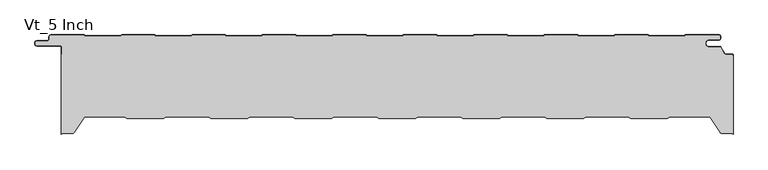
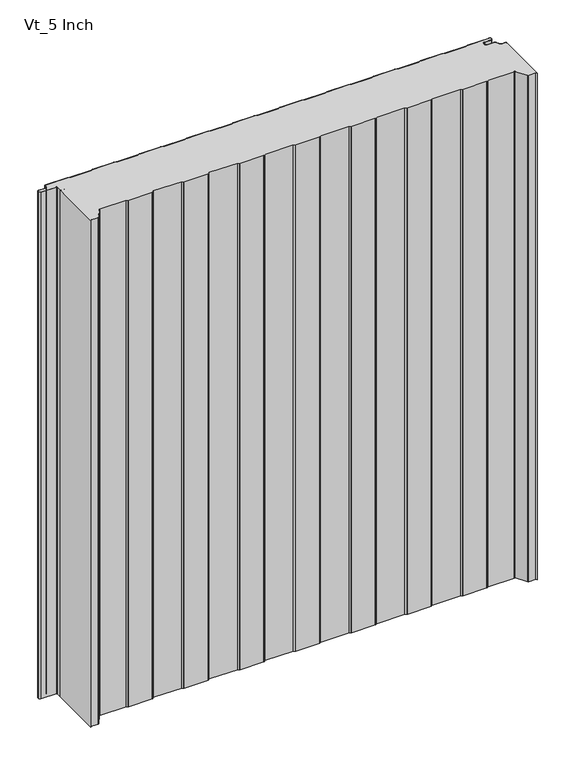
"""IFC4 building model written with IfcOpenShell, lengths in millimetres: plate geometry, KIP_R19_CP_KingSeam_Vt_Roof Panel : Vt_5 Inch."""

from ifc_helpers import new_model, si_unit, point, frame_2d, origin, origin_with_axes, place, context, project, spatial, polyline, circle_curve, trimmed, segment, composite_curve, outline, extrude, source, transform, mapped, element, save


def vt_5_inch_f296255c(model_context):
    return source(origin(), model_context, "Body", "SweptSolid", [
        extrude(outline(composite_curve([segment(trimmed(circle_curve(frame_2d((26.875, -125.5000006)), 1.4999999), [point((27.7535266, -126.7158093))], [point((26.875, -127.0000006))], False, "CARTESIAN"), True, "CONTINUOUS"), segment(polyline([(26.875, -127.0000006), (-26.875, -127.0000006)]), True, "CONTINUOUS"), segment(trimmed(circle_curve(frame_2d((-26.875, -125.5000005)), 1.5000001), [point((-26.875, -127.0000006))], [point((-27.7535268, -126.7158092))], False, "CARTESIAN"), True, "CONTINUOUS"), segment(polyline([(-27.7535268, -126.7158092), (-31.2132216, -124.2158809), (-95.786778, -124.2158809), (-99.2464733, -126.7158093)]), True, "CONTINUOUS"), segment(trimmed(circle_curve(frame_2d((-100.125, -125.5000006)), 1.4999999), [point((-99.2464733, -126.7158093))], [point((-100.125, -127.0000006))], False, "CARTESIAN"), True, "CONTINUOUS"), segment(polyline([(-100.125, -127.0000006), (-153.875, -127.0000006)]), True, "CONTINUOUS"), segment(trimmed(circle_curve(frame_2d((-153.875, -125.5000005)), 1.5000001), [point((-153.875, -127.0000006))], [point((-154.7535268, -126.7158092))], False, "CARTESIAN"), True, "CONTINUOUS"), segment(polyline([(-154.7535268, -126.7158092), (-158.2132216, -124.2158809), (-222.786778, -124.2158809), (-226.2464735, -126.7158092)]), True, "CONTINUOUS"), segment(trimmed(circle_curve(frame_2d((-227.125, -125.5000006)), 1.4999997), [point((-226.2464735, -126.7158092))], [point((-227.125, -127.0000004))], False, "CARTESIAN"), True, "CONTINUOUS"), segment(polyline([(-227.125, -127.0000004), (-280.875, -127.0000004)]), True, "CONTINUOUS"), segment(trimmed(circle_curve(frame_2d((-280.875, -125.5000003)), 1.5000001), [point((-280.875, -127.0000004))], [point((-281.7535268, -126.715809))], False, "CARTESIAN"), True, "CONTINUOUS"), segment(polyline([(-281.7535268, -126.715809), (-285.2132215, -124.2158807), (-349.7867784, -124.2158807), (-353.246473, -126.715809)]), True, "CONTINUOUS"), segment(trimmed(circle_curve(frame_2d((-354.125, -125.5000001)), 1.5000002), [point((-353.246473, -126.715809))], [point((-354.125, -127.0000003))], False, "CARTESIAN"), True, "CONTINUOUS"), segment(polyline([(-354.125, -127.0000003), (-407.8749999, -127.0000003)]), True, "CONTINUOUS"), segment(trimmed(circle_curve(frame_2d((-407.8749999, -125.5000002)), 1.5000002), [point((-407.8749999, -127.0000003))], [point((-408.7535268, -126.715809))], False, "CARTESIAN"), True, "CONTINUOUS"), segment(polyline([(-408.7535268, -126.715809), (-412.2132215, -124.2158807), (-471.3871492, -124.2158807)]), True, "CONTINUOUS"), segment(trimmed(circle_curve(frame_2d((-471.3871492, -126.7158809)), 2.5000002), [point((-471.3871492, -124.2158807))], [point((-473.4722192, -125.3365754))], True, "CARTESIAN"), True, "CONTINUOUS"), segment(polyline([(-473.4722192, -125.3365754), (-488.6756575, -148.3193254)]), True, "CONTINUOUS"), segment(trimmed(circle_curve(frame_2d((-490.3437134, -147.2158811)), 2.0), [point((-488.6756575, -148.3193254))], [point((-490.3437134, -149.2158811))], False, "CARTESIAN"), True, "CONTINUOUS"), segment(polyline([(-490.3437134, -149.2158811), (-505.9, -149.2158811)]), True, "CONTINUOUS"), segment(trimmed(circle_curve(frame_2d((-505.9, -151.3158809)), 2.0999999), [point((-505.9, -149.2158811))], [point((-507.9999998, -151.3158809))], True, "CARTESIAN"), True, "CONTINUOUS"), segment(polyline([(-507.9999998, -151.3158809), (-507.9999998, -29.9999994)]), True, "CONTINUOUS"), segment(trimmed(circle_curve(frame_2d((-505.9999998, -29.9999994)), 2.0), [point((-507.9999998, -29.9999994))], [point((-505.9999998, -31.9999994))], True, "CARTESIAN"), True, "CONTINUOUS"), segment(polyline([(-505.9999998, -31.9999994), (-498.4999998, -31.9999994), (-498.4999998, -31.1999994), (-505.9999998, -31.1999994)]), True, "CONTINUOUS"), segment(trimmed(circle_curve(frame_2d((-505.9999998, -29.6999994)), 1.5), [point((-505.9999998, -31.1999994))], [point((-507.4999998, -29.6999994))], False, "CARTESIAN"), True, "CONTINUOUS"), segment(polyline([(-507.4999998, -29.6999994), (-507.4999998, -18.4999994)]), True, "CONTINUOUS"), segment(trimmed(circle_curve(frame_2d((-509.4999998, -18.4999994)), 2.0), [point((-507.4999998, -18.4999994))], [point((-509.4999998, -16.4999994))], True, "CARTESIAN"), True, "CONTINUOUS"), segment(polyline([(-509.4999998, -16.4999994), (-544.9999998, -16.4999994)]), True, "CONTINUOUS"), segment(trimmed(circle_curve(frame_2d((-544.9999998, -13.9999994)), 2.5), [point((-544.9999998, -16.4999994))], [point((-547.4999998, -13.9999994))], False, "CARTESIAN"), True, "CONTINUOUS"), segment(polyline([(-547.4999998, -13.9999994), (-547.4999998, -11.9999994)]), True, "CONTINUOUS"), segment(trimmed(circle_curve(frame_2d((-544.9999998, -11.9999994)), 2.5), [point((-547.4999998, -11.9999994))], [point((-544.9999998, -9.4999994))], False, "CARTESIAN"), True, "CONTINUOUS"), segment(polyline([(-544.9999998, -9.4999994), (-529.2842001, -9.4999994)]), True, "CONTINUOUS"), segment(trimmed(circle_curve(frame_2d((-529.2842001, -6.4999994)), 3.0), [point((-529.2842001, -9.4999994))], [point((-526.2842001, -6.4999994))], True, "CARTESIAN"), True, "CONTINUOUS"), segment(polyline([(-526.2842001, -6.4999994), (-526.2842001, -2.9999994)]), True, "CONTINUOUS"), segment(trimmed(circle_curve(frame_2d((-524.2279507, -2.8161919)), 2.0644483), [point((-526.2842001, -2.9999994))], [point((-523.7842001, -0.7999994))], False, "CARTESIAN"), True, "CONTINUOUS"), segment(polyline([(-523.7842001, -0.7999994), (-474.0268775, -0.7999994)]), True, "CONTINUOUS"), segment(trimmed(circle_curve(frame_2d((-474.0268775, -3.1999994)), 2.4), [point((-474.0268775, -0.7999994))], [point((-473.0750562, -0.9968117))], False, "CARTESIAN"), True, "CONTINUOUS"), segment(polyline([(-473.0750562, -0.9968117), (-470.684957, -2.0293826)]), True, "CONTINUOUS"), segment(trimmed(circle_curve(frame_2d((-469.3762026, 1.0000006)), 3.3), [point((-470.684957, -2.0293826))], [point((-469.3762026, -2.2999994))], True, "CARTESIAN"), True, "CONTINUOUS"), segment(polyline([(-469.3762026, -2.2999994), (-420.9921975, -2.2999994)]), True, "CONTINUOUS"), segment(trimmed(circle_curve(frame_2d((-420.9921975, 1.0000006)), 3.3), [point((-420.9921975, -2.2999994))], [point((-419.6834432, -2.0293826))], True, "CARTESIAN"), True, "CONTINUOUS"), segment(polyline([(-419.6834432, -2.0293826), (-417.293344, -0.9968117)]), True, "CONTINUOUS"), segment(trimmed(circle_curve(frame_2d((-416.3415226, -3.1999994)), 2.4), [point((-417.293344, -0.9968117))], [point((-416.3415226, -0.7999994))], False, "CARTESIAN"), True, "CONTINUOUS"), segment(polyline([(-416.3415226, -0.7999994), (-367.4268775, -0.7999994)]), True, "CONTINUOUS"), segment(trimmed(circle_curve(frame_2d((-367.4268775, -3.1999994)), 2.4), [point((-367.4268775, -0.7999994))], [point((-366.4750562, -0.9968117))], False, "CARTESIAN"), True, "CONTINUOUS"), segment(polyline([(-366.4750562, -0.9968117), (-364.084957, -2.0293826)]), True, "CONTINUOUS"), segment(trimmed(circle_curve(frame_2d((-362.7762026, 1.0000006)), 3.3), [point((-364.084957, -2.0293826))], [point((-362.7762026, -2.2999994))], True, "CARTESIAN"), True, "CONTINUOUS"), segment(polyline([(-362.7762026, -2.2999994), (-314.3921975, -2.2999994)]), True, "CONTINUOUS"), segment(trimmed(circle_curve(frame_2d((-314.3921975, 1.0000006)), 3.3), [point((-314.3921975, -2.2999994))], [point((-313.0834432, -2.0293826))], True, "CARTESIAN"), True, "CONTINUOUS"), segment(polyline([(-313.0834432, -2.0293826), (-310.693344, -0.9968117)]), True, "CONTINUOUS"), segment(trimmed(circle_curve(frame_2d((-309.7415226, -3.1999994)), 2.4), [point((-310.693344, -0.9968117))], [point((-309.7415226, -0.7999994))], False, "CARTESIAN"), True, "CONTINUOUS"), segment(polyline([(-309.7415226, -0.7999994), (-260.8268775, -0.7999994)]), True, "CONTINUOUS"), segment(trimmed(circle_curve(frame_2d((-260.8268775, -3.1999994)), 2.4), [point((-260.8268775, -0.7999994))], [point((-259.8750562, -0.9968117))], False, "CARTESIAN"), True, "CONTINUOUS"), segment(polyline([(-259.8750562, -0.9968117), (-257.484957, -2.0293826)]), True, "CONTINUOUS"), segment(trimmed(circle_curve(frame_2d((-256.1762026, 1.0000006)), 3.3), [point((-257.484957, -2.0293826))], [point((-256.1762026, -2.2999994))], True, "CARTESIAN"), True, "CONTINUOUS"), segment(polyline([(-256.1762026, -2.2999994), (-207.7921975, -2.2999994)]), True, "CONTINUOUS"), segment(trimmed(circle_curve(frame_2d((-207.7921975, 1.0000006)), 3.3), [point((-207.7921975, -2.2999994))], [point((-206.4834432, -2.0293826))], True, "CARTESIAN"), True, "CONTINUOUS"), segment(polyline([(-206.4834432, -2.0293826), (-204.093344, -0.9968117)]), True, "CONTINUOUS"), segment(trimmed(circle_curve(frame_2d((-203.1415226, -3.1999994)), 2.4), [point((-204.093344, -0.9968117))], [point((-203.1415226, -0.7999994))], False, "CARTESIAN"), True, "CONTINUOUS"), segment(polyline([(-203.1415226, -0.7999994), (-154.2268775, -0.7999994)]), True, "CONTINUOUS"), segment(trimmed(circle_curve(frame_2d((-154.2268775, -3.1999994)), 2.4), [point((-154.2268775, -0.7999994))], [point((-153.2750562, -0.9968117))], False, "CARTESIAN"), True, "CONTINUOUS"), segment(polyline([(-153.2750562, -0.9968117), (-150.884957, -2.0293826)]), True, "CONTINUOUS"), segment(trimmed(circle_curve(frame_2d((-149.5762026, 1.0000006)), 3.3), [point((-150.884957, -2.0293826))], [point((-149.5762026, -2.2999994))], True, "CARTESIAN"), True, "CONTINUOUS"), segment(polyline([(-149.5762026, -2.2999994), (-101.1921975, -2.2999994)]), True, "CONTINUOUS"), segment(trimmed(circle_curve(frame_2d((-101.1921975, 1.0000006)), 3.3), [point((-101.1921975, -2.2999994))], [point((-99.8834432, -2.0293826))], True, "CARTESIAN"), True, "CONTINUOUS"), segment(polyline([(-99.8834432, -2.0293826), (-97.493344, -0.9968117)]), True, "CONTINUOUS"), segment(trimmed(circle_curve(frame_2d((-96.5415226, -3.1999994)), 2.4), [point((-97.493344, -0.9968117))], [point((-96.5415226, -0.7999994))], False, "CARTESIAN"), True, "CONTINUOUS"), segment(polyline([(-96.5415226, -0.7999994), (-47.6268775, -0.7999994)]), True, "CONTINUOUS"), segment(trimmed(circle_curve(frame_2d((-47.6268775, -3.1999994)), 2.4), [point((-47.6268775, -0.7999994))], [point((-46.6750562, -0.9968117))], False, "CARTESIAN"), True, "CONTINUOUS"), segment(polyline([(-46.6750562, -0.9968117), (-44.284957, -2.0293826)]), True, "CONTINUOUS"), segment(trimmed(circle_curve(frame_2d((-42.9762026, 1.0000006)), 3.3), [point((-44.284957, -2.0293826))], [point((-42.9762026, -2.2999994))], True, "CARTESIAN"), True, "CONTINUOUS"), segment(polyline([(-42.9762026, -2.2999994), (5.4078025, -2.2999994)]), True, "CONTINUOUS"), segment(trimmed(circle_curve(frame_2d((5.4078025, 1.0000006)), 3.3), [point((5.4078025, -2.2999994))], [point((6.7165568, -2.0293826))], True, "CARTESIAN"), True, "CONTINUOUS"), segment(polyline([(6.7165568, -2.0293826), (9.106656, -0.9968117)]), True, "CONTINUOUS"), segment(trimmed(circle_curve(frame_2d((10.0584774, -3.1999994)), 2.4), [point((9.106656, -0.9968117))], [point((10.0584774, -0.7999994))], False, "CARTESIAN"), True, "CONTINUOUS"), segment(polyline([(10.0584774, -0.7999994), (58.9731225, -0.7999994)]), True, "CONTINUOUS"), segment(trimmed(circle_curve(frame_2d((58.9731225, -3.1999994)), 2.4), [point((58.9731225, -0.7999994))], [point((59.9249438, -0.9968117))], False, "CARTESIAN"), True, "CONTINUOUS"), segment(polyline([(59.9249438, -0.9968117), (62.315043, -2.0293826)]), True, "CONTINUOUS"), segment(trimmed(circle_curve(frame_2d((63.6237974, 1.0000006)), 3.3), [point((62.315043, -2.0293826))], [point((63.6237974, -2.2999994))], True, "CARTESIAN"), True, "CONTINUOUS"), segment(polyline([(63.6237974, -2.2999994), (112.0078025, -2.2999994)]), True, "CONTINUOUS"), segment(trimmed(circle_curve(frame_2d((112.0078025, 1.0000006)), 3.3), [point((112.0078025, -2.2999994))], [point((113.3165568, -2.0293826))], True, "CARTESIAN"), True, "CONTINUOUS"), segment(polyline([(113.3165568, -2.0293826), (115.706656, -0.9968117)]), True, "CONTINUOUS"), segment(trimmed(circle_curve(frame_2d((116.6584774, -3.1999994)), 2.4), [point((115.706656, -0.9968117))], [point((116.6584774, -0.7999994))], False, "CARTESIAN"), True, "CONTINUOUS"), segment(polyline([(116.6584774, -0.7999994), (165.5731225, -0.7999994)]), True, "CONTINUOUS"), segment(trimmed(circle_curve(frame_2d((165.5731225, -3.1999994)), 2.4), [point((165.5731225, -0.7999994))], [point((166.5249438, -0.9968117))], False, "CARTESIAN"), True, "CONTINUOUS"), segment(polyline([(166.5249438, -0.9968117), (168.915043, -2.0293826)]), True, "CONTINUOUS"), segment(trimmed(circle_curve(frame_2d((170.2237974, 1.0000006)), 3.3), [point((168.915043, -2.0293826))], [point((170.2237974, -2.2999994))], True, "CARTESIAN"), True, "CONTINUOUS"), segment(polyline([(170.2237974, -2.2999994), (218.6078025, -2.2999994)]), True, "CONTINUOUS"), segment(trimmed(circle_curve(frame_2d((218.6078025, 1.0000006)), 3.3), [point((218.6078025, -2.2999994))], [point((219.9165568, -2.0293826))], True, "CARTESIAN"), True, "CONTINUOUS"), segment(polyline([(219.9165568, -2.0293826), (222.306656, -0.9968117)]), True, "CONTINUOUS"), segment(trimmed(circle_curve(frame_2d((223.2584774, -3.1999994)), 2.4), [point((222.306656, -0.9968117))], [point((223.2584774, -0.7999994))], False, "CARTESIAN"), True, "CONTINUOUS"), segment(polyline([(223.2584774, -0.7999994), (272.1731225, -0.7999994)]), True, "CONTINUOUS"), segment(trimmed(circle_curve(frame_2d((272.1731225, -3.1999994)), 2.4), [point((272.1731225, -0.7999994))], [point((273.1249438, -0.9968117))], False, "CARTESIAN"), True, "CONTINUOUS"), segment(polyline([(273.1249438, -0.9968117), (275.515043, -2.0293826)]), True, "CONTINUOUS"), segment(trimmed(circle_curve(frame_2d((276.8237974, 1.0000006)), 3.3), [point((275.515043, -2.0293826))], [point((276.8237974, -2.2999994))], True, "CARTESIAN"), True, "CONTINUOUS"), segment(polyline([(276.8237974, -2.2999994), (325.2078025, -2.2999994)]), True, "CONTINUOUS"), segment(trimmed(circle_curve(frame_2d((325.2078025, 1.0000006)), 3.3), [point((325.2078025, -2.2999994))], [point((326.5165568, -2.0293826))], True, "CARTESIAN"), True, "CONTINUOUS"), segment(polyline([(326.5165568, -2.0293826), (328.906656, -0.9968117)]), True, "CONTINUOUS"), segment(trimmed(circle_curve(frame_2d((329.8584774, -3.1999994)), 2.4), [point((328.906656, -0.9968117))], [point((329.8584774, -0.7999994))], False, "CARTESIAN"), True, "CONTINUOUS"), segment(polyline([(329.8584774, -0.7999994), (378.7731225, -0.7999994)]), True, "CONTINUOUS"), segment(trimmed(circle_curve(frame_2d((378.7731225, -3.1999994)), 2.4), [point((378.7731225, -0.7999994))], [point((379.7249438, -0.9968117))], False, "CARTESIAN"), True, "CONTINUOUS"), segment(polyline([(379.7249438, -0.9968117), (382.115043, -2.0293826)]), True, "CONTINUOUS"), segment(trimmed(circle_curve(frame_2d((383.4237974, 1.0000006)), 3.3), [point((382.115043, -2.0293826))], [point((383.4237974, -2.2999994))], True, "CARTESIAN"), True, "CONTINUOUS"), segment(polyline([(383.4237974, -2.2999994), (431.8078025, -2.2999994)]), True, "CONTINUOUS"), segment(trimmed(circle_curve(frame_2d((431.8078025, 1.0000006)), 3.3), [point((431.8078025, -2.2999994))], [point((433.1165568, -2.0293826))], True, "CARTESIAN"), True, "CONTINUOUS"), segment(polyline([(433.1165568, -2.0293826), (435.506656, -0.9968117)]), True, "CONTINUOUS"), segment(trimmed(circle_curve(frame_2d((436.4584774, -3.1999994)), 2.4), [point((435.506656, -0.9968117))], [point((436.4584774, -0.7999994))], False, "CARTESIAN"), True, "CONTINUOUS"), segment(polyline([(436.4584774, -0.7999994), (486.2157999, -0.7999994)]), True, "CONTINUOUS"), segment(trimmed(circle_curve(frame_2d((486.6595506, -2.8161919)), 2.0644483), [point((486.2157999, -0.7999994))], [point((488.7157999, -2.9999994))], False, "CARTESIAN"), True, "CONTINUOUS"), segment(polyline([(488.7157999, -2.9999994), (488.7157999, -4.9999994)]), True, "CONTINUOUS"), segment(trimmed(circle_curve(frame_2d((486.2157999, -4.9999994)), 2.5), [point((488.7157999, -4.9999994))], [point((486.2157999, -7.4999994))], False, "CARTESIAN"), True, "CONTINUOUS"), segment(polyline([(486.2157999, -7.4999994), (471.2500002, -7.4999994)]), True, "CONTINUOUS"), segment(trimmed(circle_curve(frame_2d((471.2500002, -12.2499994)), 4.75), [point((471.2500002, -7.4999994))], [point((466.5000002, -12.2499994))], True, "CARTESIAN"), True, "CONTINUOUS"), segment(polyline([(466.5000002, -12.2499994), (466.5000002, -13.7499994)]), True, "CONTINUOUS"), segment(trimmed(circle_curve(frame_2d((471.2500002, -13.7499994)), 4.75), [point((466.5000002, -13.7499994))], [point((471.2500002, -18.4999994))], True, "CARTESIAN"), True, "CONTINUOUS"), segment(polyline([(471.2500002, -18.4999994), (488.3513452, -18.4999994)]), True, "CONTINUOUS"), segment(trimmed(circle_curve(frame_2d((488.3513452, -19.4999994)), 1.0), [point((488.3513452, -18.4999994))], [point((489.2165838, -18.9986392))], False, "CARTESIAN"), True, "CONTINUOUS"), segment(polyline([(489.2165838, -18.9986392), (494.8780846, -28.7691573)]), True, "CONTINUOUS"), segment(trimmed(circle_curve(frame_2d((496.6085619, -27.7664368)), 2.0), [point((494.8780846, -28.7691573))], [point((496.6085619, -29.7664368))], True, "CARTESIAN"), True, "CONTINUOUS"), segment(polyline([(496.6085619, -29.7664368), (506.2, -29.7664368)]), True, "CONTINUOUS"), segment(trimmed(circle_curve(frame_2d((506.2, -30.7664368)), 1.0), [point((506.2, -29.7664368))], [point((507.2, -30.7664368))], False, "CARTESIAN"), True, "CONTINUOUS"), segment(polyline([(507.2, -30.7664368), (507.2, -31.9999994), (507.9999999, -31.9999994), (507.9999999, -151.3158808)]), True, "CONTINUOUS"), segment(trimmed(circle_curve(frame_2d((505.8999999, -151.3158808)), 2.1), [point((507.9999999, -151.3158808))], [point((505.8999999, -149.2158808))], True, "CARTESIAN"), True, "CONTINUOUS"), segment(polyline([(505.8999999, -149.2158808), (490.3437133, -149.2158808)]), True, "CONTINUOUS"), segment(trimmed(circle_curve(frame_2d((490.3437133, -147.2158808)), 2.0), [point((490.3437133, -149.2158808))], [point((488.6756574, -148.3193251))], False, "CARTESIAN"), True, "CONTINUOUS"), segment(polyline([(488.6756574, -148.3193251), (473.4722191, -125.3365754)]), True, "CONTINUOUS"), segment(trimmed(circle_curve(frame_2d((471.3871492, -126.7158808)), 2.5), [point((473.4722191, -125.3365754))], [point((471.3871492, -124.2158808))], True, "CARTESIAN"), True, "CONTINUOUS"), segment(polyline([(471.3871492, -124.2158808), (412.2132217, -124.2158808), (408.7535265, -126.7158088)]), True, "CONTINUOUS"), segment(trimmed(circle_curve(frame_2d((407.8749999, -125.5000001)), 1.4999999), [point((408.7535265, -126.7158088))], [point((407.8749999, -127.0))], False, "CARTESIAN"), True, "CONTINUOUS"), segment(polyline([(407.8749999, -127.0), (354.125, -127.0)]), True, "CONTINUOUS"), segment(trimmed(circle_curve(frame_2d((354.125, -125.4999999)), 1.5000001), [point((354.125, -127.0))], [point((353.2464731, -126.7158086))], False, "CARTESIAN"), True, "CONTINUOUS"), segment(polyline([(353.2464731, -126.7158086), (349.7867784, -124.2158803), (285.2132225, -124.2158803), (281.7535266, -126.7158091)]), True, "CONTINUOUS"), segment(trimmed(circle_curve(frame_2d((280.875, -125.5000005)), 1.4999999), [point((281.7535266, -126.7158091))], [point((280.875, -127.0000004))], False, "CARTESIAN"), True, "CONTINUOUS"), segment(polyline([(280.875, -127.0000004), (227.125, -127.0000004)]), True, "CONTINUOUS"), segment(trimmed(circle_curve(frame_2d((227.125, -125.5000003)), 1.5000001), [point((227.125, -127.0000004))], [point((226.2464732, -126.715809))], False, "CARTESIAN"), True, "CONTINUOUS"), segment(polyline([(226.2464732, -126.715809), (222.7867784, -124.2158807), (158.2132215, -124.2158807), (154.7535267, -126.7158089)]), True, "CONTINUOUS"), segment(trimmed(circle_curve(frame_2d((153.875, -125.5000002)), 1.5), [point((154.7535267, -126.7158089))], [point((153.875, -127.0000002))], False, "CARTESIAN"), True, "CONTINUOUS"), segment(polyline([(153.875, -127.0000002), (100.125, -127.0000003)]), True, "CONTINUOUS"), segment(trimmed(circle_curve(frame_2d((100.125, -125.5000003)), 1.4999999), [point((100.125, -127.0000003))], [point((99.2464733, -126.715809))], False, "CARTESIAN"), True, "CONTINUOUS"), segment(polyline([(99.2464733, -126.715809), (95.7867784, -124.2158809), (31.213222, -124.2158809), (27.7535266, -126.7158093)]), True, "CONTINUOUS")], self_intersect=False)), origin_with_axes(), (0.0, 0.0, 1.0), 1219.2),
        extrude(outline(composite_curve([segment(trimmed(circle_curve(frame_2d((-506.0157998, -30.0)), 2.0), [point((-506.0157998, -32.0))], [point((-508.0157998, -30.0))], False, "CARTESIAN"), True, "CONTINUOUS"), segment(polyline([(-508.0157998, -30.0), (-508.0157998, -18.5)]), True, "CONTINUOUS"), segment(trimmed(circle_curve(frame_2d((-509.5157998, -18.5)), 1.5), [point((-508.0157998, -18.5))], [point((-509.5157998, -17.0))], True, "CARTESIAN"), True, "CONTINUOUS"), segment(polyline([(-509.5157998, -17.0), (-545.0157998, -17.0)]), True, "CONTINUOUS"), segment(trimmed(circle_curve(frame_2d((-545.0157998, -14.0)), 3.0), [point((-545.0157998, -17.0))], [point((-548.0157998, -14.0))], False, "CARTESIAN"), True, "CONTINUOUS"), segment(polyline([(-548.0157998, -14.0), (-548.0157998, -12.0)]), True, "CONTINUOUS"), segment(trimmed(circle_curve(frame_2d((-545.0157998, -12.0)), 3.0), [point((-548.0157998, -12.0))], [point((-545.0157998, -9.0))], False, "CARTESIAN"), True, "CONTINUOUS"), segment(polyline([(-545.0157998, -9.0), (-529.3, -9.0)]), True, "CONTINUOUS"), segment(trimmed(circle_curve(frame_2d((-529.3, -6.5)), 2.5), [point((-529.3, -9.0))], [point((-526.8, -6.5))], True, "CARTESIAN"), True, "CONTINUOUS"), segment(polyline([(-526.8, -6.5), (-526.8, -3.0)]), True, "CONTINUOUS"), segment(trimmed(circle_curve(frame_2d((-523.8, -3.0)), 3.0), [point((-526.8, -3.0))], [point((-523.8, 0.0))], False, "CARTESIAN"), True, "CONTINUOUS"), segment(polyline([(-523.8, 0.0), (-474.0426774, 0.0)]), True, "CONTINUOUS"), segment(trimmed(circle_curve(frame_2d((-474.0426774, -3.2)), 3.2), [point((-474.0426774, 0.0))], [point((-472.7735823, -0.2624164))], False, "CARTESIAN"), True, "CONTINUOUS"), segment(polyline([(-472.7735823, -0.2624164), (-470.3834831, -1.2949872)]), True, "CONTINUOUS"), segment(trimmed(circle_curve(frame_2d((-469.3920026, 1.0)), 2.5), [point((-470.3834831, -1.2949872))], [point((-469.3920026, -1.5))], True, "CARTESIAN"), True, "CONTINUOUS"), segment(polyline([(-469.3920026, -1.5), (-421.0079974, -1.5)]), True, "CONTINUOUS"), segment(trimmed(circle_curve(frame_2d((-421.0079974, 1.0)), 2.5), [point((-421.0079974, -1.5))], [point((-420.0165169, -1.2949872))], True, "CARTESIAN"), True, "CONTINUOUS"), segment(polyline([(-420.0165169, -1.2949872), (-417.6264177, -0.2624164)]), True, "CONTINUOUS"), segment(trimmed(circle_curve(frame_2d((-416.3573226, -3.2)), 3.2), [point((-417.6264177, -0.2624164))], [point((-416.3573226, 0.0))], False, "CARTESIAN"), True, "CONTINUOUS"), segment(polyline([(-416.3573226, 0.0), (-367.4426774, 0.0)]), True, "CONTINUOUS"), segment(trimmed(circle_curve(frame_2d((-367.4426774, -3.2)), 3.2), [point((-367.4426774, 0.0))], [point((-366.1735823, -0.2624164))], False, "CARTESIAN"), True, "CONTINUOUS"), segment(polyline([(-366.1735823, -0.2624164), (-363.7834831, -1.2949872)]), True, "CONTINUOUS"), segment(trimmed(circle_curve(frame_2d((-362.7920026, 1.0)), 2.5), [point((-363.7834831, -1.2949872))], [point((-362.7920026, -1.5))], True, "CARTESIAN"), True, "CONTINUOUS"), segment(polyline([(-362.7920026, -1.5), (-314.4079974, -1.5)]), True, "CONTINUOUS"), segment(trimmed(circle_curve(frame_2d((-314.4079974, 1.0)), 2.5), [point((-314.4079974, -1.5))], [point((-313.4165169, -1.2949872))], True, "CARTESIAN"), True, "CONTINUOUS"), segment(polyline([(-313.4165169, -1.2949872), (-311.0264177, -0.2624164)]), True, "CONTINUOUS"), segment(trimmed(circle_curve(frame_2d((-309.7573226, -3.2)), 3.2), [point((-311.0264177, -0.2624164))], [point((-309.7573226, 0.0))], False, "CARTESIAN"), True, "CONTINUOUS"), segment(polyline([(-309.7573226, 0.0), (-260.8426774, 0.0)]), True, "CONTINUOUS"), segment(trimmed(circle_curve(frame_2d((-260.8426774, -3.2)), 3.2), [point((-260.8426774, 0.0))], [point((-259.5735823, -0.2624164))], False, "CARTESIAN"), True, "CONTINUOUS"), segment(polyline([(-259.5735823, -0.2624164), (-257.1834831, -1.2949872)]), True, "CONTINUOUS"), segment(trimmed(circle_curve(frame_2d((-256.1920026, 1.0)), 2.5), [point((-257.1834831, -1.2949872))], [point((-256.1920026, -1.5))], True, "CARTESIAN"), True, "CONTINUOUS"), segment(polyline([(-256.1920026, -1.5), (-207.8079974, -1.5)]), True, "CONTINUOUS"), segment(trimmed(circle_curve(frame_2d((-207.8079974, 1.0)), 2.5), [point((-207.8079974, -1.5))], [point((-206.8165169, -1.2949872))], True, "CARTESIAN"), True, "CONTINUOUS"), segment(polyline([(-206.8165169, -1.2949872), (-204.4264177, -0.2624164)]), True, "CONTINUOUS"), segment(trimmed(circle_curve(frame_2d((-203.1573226, -3.2)), 3.2), [point((-204.4264177, -0.2624164))], [point((-203.1573226, 0.0))], False, "CARTESIAN"), True, "CONTINUOUS"), segment(polyline([(-203.1573226, 0.0), (-154.2426774, 0.0)]), True, "CONTINUOUS"), segment(trimmed(circle_curve(frame_2d((-154.2426774, -3.2)), 3.2), [point((-154.2426774, 0.0))], [point((-152.9735823, -0.2624164))], False, "CARTESIAN"), True, "CONTINUOUS"), segment(polyline([(-152.9735823, -0.2624164), (-150.5834831, -1.2949872)]), True, "CONTINUOUS"), segment(trimmed(circle_curve(frame_2d((-149.5920026, 1.0)), 2.5), [point((-150.5834831, -1.2949872))], [point((-149.5920026, -1.5))], True, "CARTESIAN"), True, "CONTINUOUS"), segment(polyline([(-149.5920026, -1.5), (-101.2079974, -1.5)]), True, "CONTINUOUS"), segment(trimmed(circle_curve(frame_2d((-101.2079974, 1.0)), 2.5), [point((-101.2079974, -1.5))], [point((-100.2165169, -1.2949872))], True, "CARTESIAN"), True, "CONTINUOUS"), segment(polyline([(-100.2165169, -1.2949872), (-97.8264177, -0.2624164)]), True, "CONTINUOUS"), segment(trimmed(circle_curve(frame_2d((-96.5573226, -3.2)), 3.2), [point((-97.8264177, -0.2624164))], [point((-96.5573226, 0.0))], False, "CARTESIAN"), True, "CONTINUOUS"), segment(polyline([(-96.5573226, 0.0), (-47.6426774, 0.0)]), True, "CONTINUOUS"), segment(trimmed(circle_curve(frame_2d((-47.6426774, -3.2)), 3.2), [point((-47.6426774, 0.0))], [point((-46.3735823, -0.2624164))], False, "CARTESIAN"), True, "CONTINUOUS"), segment(polyline([(-46.3735823, -0.2624164), (-43.9834831, -1.2949872)]), True, "CONTINUOUS"), segment(trimmed(circle_curve(frame_2d((-42.9920026, 1.0)), 2.5), [point((-43.9834831, -1.2949872))], [point((-42.9920026, -1.5))], True, "CARTESIAN"), True, "CONTINUOUS"), segment(polyline([(-42.9920026, -1.5), (5.3920026, -1.5)]), True, "CONTINUOUS"), segment(trimmed(circle_curve(frame_2d((5.3920026, 1.0)), 2.5), [point((5.3920026, -1.5))], [point((6.3834831, -1.2949872))], True, "CARTESIAN"), True, "CONTINUOUS"), segment(polyline([(6.3834831, -1.2949872), (8.7735823, -0.2624164)]), True, "CONTINUOUS"), segment(trimmed(circle_curve(frame_2d((10.0426774, -3.2)), 3.2), [point((8.7735823, -0.2624164))], [point((10.0426774, 0.0))], False, "CARTESIAN"), True, "CONTINUOUS"), segment(polyline([(10.0426774, 0.0), (58.9573226, 0.0)]), True, "CONTINUOUS"), segment(trimmed(circle_curve(frame_2d((58.9573226, -3.2)), 3.2), [point((58.9573226, 0.0))], [point((60.2264177, -0.2624164))], False, "CARTESIAN"), True, "CONTINUOUS"), segment(polyline([(60.2264177, -0.2624164), (62.6165169, -1.2949872)]), True, "CONTINUOUS"), segment(trimmed(circle_curve(frame_2d((63.6079974, 1.0)), 2.5), [point((62.6165169, -1.2949872))], [point((63.6079974, -1.5))], True, "CARTESIAN"), True, "CONTINUOUS"), segment(polyline([(63.6079974, -1.5), (111.9920026, -1.5)]), True, "CONTINUOUS"), segment(trimmed(circle_curve(frame_2d((111.9920026, 1.0)), 2.5), [point((111.9920026, -1.5))], [point((112.9834831, -1.2949872))], True, "CARTESIAN"), True, "CONTINUOUS"), segment(polyline([(112.9834831, -1.2949872), (115.3735823, -0.2624164)]), True, "CONTINUOUS"), segment(trimmed(circle_curve(frame_2d((116.6426774, -3.2)), 3.2), [point((115.3735823, -0.2624164))], [point((116.6426774, 0.0))], False, "CARTESIAN"), True, "CONTINUOUS"), segment(polyline([(116.6426774, 0.0), (165.5573226, 0.0)]), True, "CONTINUOUS"), segment(trimmed(circle_curve(frame_2d((165.5573226, -3.2)), 3.2), [point((165.5573226, 0.0))], [point((166.8264177, -0.2624164))], False, "CARTESIAN"), True, "CONTINUOUS"), segment(polyline([(166.8264177, -0.2624164), (169.2165169, -1.2949872)]), True, "CONTINUOUS"), segment(trimmed(circle_curve(frame_2d((170.2079974, 1.0)), 2.5), [point((169.2165169, -1.2949872))], [point((170.2079974, -1.5))], True, "CARTESIAN"), True, "CONTINUOUS"), segment(polyline([(170.2079974, -1.5), (218.5920026, -1.5)]), True, "CONTINUOUS"), segment(trimmed(circle_curve(frame_2d((218.5920026, 1.0)), 2.5), [point((218.5920026, -1.5))], [point((219.5834831, -1.2949872))], True, "CARTESIAN"), True, "CONTINUOUS"), segment(polyline([(219.5834831, -1.2949872), (221.9735823, -0.2624164)]), True, "CONTINUOUS"), segment(trimmed(circle_curve(frame_2d((223.2426774, -3.2)), 3.2), [point((221.9735823, -0.2624164))], [point((223.2426774, 0.0))], False, "CARTESIAN"), True, "CONTINUOUS"), segment(polyline([(223.2426774, 0.0), (272.1573226, 0.0)]), True, "CONTINUOUS"), segment(trimmed(circle_curve(frame_2d((272.1573226, -3.2)), 3.2), [point((272.1573226, 0.0))], [point((273.4264177, -0.2624164))], False, "CARTESIAN"), True, "CONTINUOUS"), segment(polyline([(273.4264177, -0.2624164), (275.8165169, -1.2949872)]), True, "CONTINUOUS"), segment(trimmed(circle_curve(frame_2d((276.8079974, 1.0)), 2.5), [point((275.8165169, -1.2949872))], [point((276.8079974, -1.5))], True, "CARTESIAN"), True, "CONTINUOUS"), segment(polyline([(276.8079974, -1.5), (325.1920026, -1.5)]), True, "CONTINUOUS"), segment(trimmed(circle_curve(frame_2d((325.1920026, 1.0)), 2.5), [point((325.1920026, -1.5))], [point((326.1834831, -1.2949872))], True, "CARTESIAN"), True, "CONTINUOUS"), segment(polyline([(326.1834831, -1.2949872), (328.5735823, -0.2624164)]), True, "CONTINUOUS"), segment(trimmed(circle_curve(frame_2d((329.8426774, -3.2)), 3.2), [point((328.5735823, -0.2624164))], [point((329.8426774, 0.0))], False, "CARTESIAN"), True, "CONTINUOUS"), segment(polyline([(329.8426774, 0.0), (378.7573226, 0.0)]), True, "CONTINUOUS"), segment(trimmed(circle_curve(frame_2d((378.7573226, -3.2)), 3.2), [point((378.7573226, 0.0))], [point((380.0264177, -0.2624164))], False, "CARTESIAN"), True, "CONTINUOUS"), segment(polyline([(380.0264177, -0.2624164), (382.4165169, -1.2949872)]), True, "CONTINUOUS"), segment(trimmed(circle_curve(frame_2d((383.4079974, 1.0)), 2.5), [point((382.4165169, -1.2949872))], [point((383.4079974, -1.5))], True, "CARTESIAN"), True, "CONTINUOUS"), segment(polyline([(383.4079974, -1.5), (431.7920026, -1.5)]), True, "CONTINUOUS"), segment(trimmed(circle_curve(frame_2d((431.7920026, 1.0)), 2.5), [point((431.7920026, -1.5))], [point((432.7834831, -1.2949872))], True, "CARTESIAN"), True, "CONTINUOUS"), segment(polyline([(432.7834831, -1.2949872), (435.1735823, -0.2624164)]), True, "CONTINUOUS"), segment(trimmed(circle_curve(frame_2d((436.4426774, -3.2)), 3.2), [point((435.1735823, -0.2624164))], [point((436.4426774, 0.0))], False, "CARTESIAN"), True, "CONTINUOUS"), segment(polyline([(436.4426774, 0.0), (486.2, 0.0)]), True, "CONTINUOUS"), segment(trimmed(circle_curve(frame_2d((486.2, -3.0)), 3.0), [point((486.2, 0.0))], [point((489.2, -3.0))], False, "CARTESIAN"), True, "CONTINUOUS"), segment(polyline([(489.2, -3.0), (489.2, -5.0)]), True, "CONTINUOUS"), segment(trimmed(circle_curve(frame_2d((486.2, -5.0)), 3.0), [point((489.2, -5.0))], [point((486.2, -8.0))], False, "CARTESIAN"), True, "CONTINUOUS"), segment(polyline([(486.2, -8.0), (471.2342002, -8.0)]), True, "CONTINUOUS"), segment(trimmed(circle_curve(frame_2d((471.2342002, -12.25)), 4.25), [point((471.2342002, -8.0))], [point((466.9842002, -12.25))], True, "CARTESIAN"), True, "CONTINUOUS"), segment(polyline([(466.9842002, -12.25), (466.9842002, -13.75)]), True, "CONTINUOUS"), segment(trimmed(circle_curve(frame_2d((471.2342002, -13.75)), 4.25), [point((466.9842002, -13.75))], [point((471.2342002, -18.0))], True, "CARTESIAN"), True, "CONTINUOUS"), segment(polyline([(471.2342002, -18.0), (488.3355453, -18.0)]), True, "CONTINUOUS"), segment(trimmed(circle_curve(frame_2d((488.3355453, -19.5)), 1.5), [point((488.3355453, -18.0))], [point((489.6334032, -18.7479596))], False, "CARTESIAN"), True, "CONTINUOUS"), segment(polyline([(489.6334032, -18.7479596), (495.294904, -28.5184777)]), True, "CONTINUOUS"), segment(trimmed(circle_curve(frame_2d((496.592762, -27.7664374)), 1.5), [point((495.294904, -28.5184777))], [point((496.592762, -29.2664374))], True, "CARTESIAN"), True, "CONTINUOUS"), segment(polyline([(496.592762, -29.2664374), (506.4842001, -29.2664374)]), True, "CONTINUOUS"), segment(trimmed(circle_curve(frame_2d((506.4842001, -30.7664374)), 1.5), [point((506.4842001, -29.2664374))], [point((507.9842001, -30.7664374))], False, "CARTESIAN"), True, "CONTINUOUS"), segment(polyline([(507.9842001, -30.7664374), (507.9842001, -32.0), (507.1842001, -32.0), (507.1842001, -30.7664374)]), True, "CONTINUOUS"), segment(trimmed(circle_curve(frame_2d((506.1842001, -30.7664374)), 1.0), [point((507.1842001, -30.7664374))], [point((506.1842001, -29.7664374))], True, "CARTESIAN"), True, "CONTINUOUS"), segment(polyline([(506.1842001, -29.7664374), (496.592762, -29.7664374)]), True, "CONTINUOUS"), segment(trimmed(circle_curve(frame_2d((496.592762, -27.7664374)), 2.0), [point((496.592762, -29.7664374))], [point((494.8622847, -28.7691578))], False, "CARTESIAN"), True, "CONTINUOUS"), segment(polyline([(494.8622847, -28.7691578), (489.2007839, -18.9986398)]), True, "CONTINUOUS"), segment(trimmed(circle_curve(frame_2d((488.3355453, -19.5)), 1.0), [point((489.2007839, -18.9986398))], [point((488.3355453, -18.5))], True, "CARTESIAN"), True, "CONTINUOUS"), segment(polyline([(488.3355453, -18.5), (471.2342002, -18.5)]), True, "CONTINUOUS"), segment(trimmed(circle_curve(frame_2d((471.2342002, -13.75)), 4.75), [point((471.2342002, -18.5))], [point((466.4842002, -13.75))], False, "CARTESIAN"), True, "CONTINUOUS"), segment(polyline([(466.4842002, -13.75), (466.4842002, -12.25)]), True, "CONTINUOUS"), segment(trimmed(circle_curve(frame_2d((471.2342002, -12.25)), 4.75), [point((466.4842002, -12.25))], [point((471.2342002, -7.5))], False, "CARTESIAN"), True, "CONTINUOUS"), segment(polyline([(471.2342002, -7.5), (486.2, -7.5)]), True, "CONTINUOUS"), segment(trimmed(circle_curve(frame_2d((486.2, -5.0)), 2.5), [point((486.2, -7.5))], [point((488.7, -5.0))], True, "CARTESIAN"), True, "CONTINUOUS"), segment(polyline([(488.7, -5.0), (488.7, -3.0)]), True, "CONTINUOUS"), segment(trimmed(circle_curve(frame_2d((486.6437506, -2.8161925)), 2.0644483), [point((488.7, -3.0))], [point((486.2, -0.8))], True, "CARTESIAN"), True, "CONTINUOUS"), segment(polyline([(486.2, -0.8), (436.4426774, -0.8)]), True, "CONTINUOUS"), segment(trimmed(circle_curve(frame_2d((436.4426774, -3.2)), 2.4), [point((436.4426774, -0.8))], [point((435.4908561, -0.9968123))], True, "CARTESIAN"), True, "CONTINUOUS"), segment(polyline([(435.4908561, -0.9968123), (433.1007569, -2.0293831)]), True, "CONTINUOUS"), segment(trimmed(circle_curve(frame_2d((431.7920026, 1.0)), 3.3), [point((433.1007569, -2.0293831))], [point((431.7920026, -2.3))], False, "CARTESIAN"), True, "CONTINUOUS"), segment(polyline([(431.7920026, -2.3), (383.4079974, -2.3)]), True, "CONTINUOUS"), segment(trimmed(circle_curve(frame_2d((383.4079974, 1.0)), 3.3), [point((383.4079974, -2.3))], [point((382.0992431, -2.0293831))], False, "CARTESIAN"), True, "CONTINUOUS"), segment(polyline([(382.0992431, -2.0293831), (379.7091439, -0.9968123)]), True, "CONTINUOUS"), segment(trimmed(circle_curve(frame_2d((378.7573226, -3.2)), 2.4), [point((379.7091439, -0.9968123))], [point((378.7573226, -0.8))], True, "CARTESIAN"), True, "CONTINUOUS"), segment(polyline([(378.7573226, -0.8), (329.8426774, -0.8)]), True, "CONTINUOUS"), segment(trimmed(circle_curve(frame_2d((329.8426774, -3.2)), 2.4), [point((329.8426774, -0.8))], [point((328.8908561, -0.9968123))], True, "CARTESIAN"), True, "CONTINUOUS"), segment(polyline([(328.8908561, -0.9968123), (326.5007569, -2.0293831)]), True, "CONTINUOUS"), segment(trimmed(circle_curve(frame_2d((325.1920026, 1.0)), 3.3), [point((326.5007569, -2.0293831))], [point((325.1920026, -2.3))], False, "CARTESIAN"), True, "CONTINUOUS"), segment(polyline([(325.1920026, -2.3), (276.8079974, -2.3)]), True, "CONTINUOUS"), segment(trimmed(circle_curve(frame_2d((276.8079974, 1.0)), 3.3), [point((276.8079974, -2.3))], [point((275.4992431, -2.0293831))], False, "CARTESIAN"), True, "CONTINUOUS"), segment(polyline([(275.4992431, -2.0293831), (273.1091439, -0.9968123)]), True, "CONTINUOUS"), segment(trimmed(circle_curve(frame_2d((272.1573226, -3.2)), 2.4), [point((273.1091439, -0.9968123))], [point((272.1573226, -0.8))], True, "CARTESIAN"), True, "CONTINUOUS"), segment(polyline([(272.1573226, -0.8), (223.2426774, -0.8)]), True, "CONTINUOUS"), segment(trimmed(circle_curve(frame_2d((223.2426774, -3.2)), 2.4), [point((223.2426774, -0.8))], [point((222.2908561, -0.9968123))], True, "CARTESIAN"), True, "CONTINUOUS"), segment(polyline([(222.2908561, -0.9968123), (219.9007569, -2.0293831)]), True, "CONTINUOUS"), segment(trimmed(circle_curve(frame_2d((218.5920026, 1.0)), 3.3), [point((219.9007569, -2.0293831))], [point((218.5920026, -2.3))], False, "CARTESIAN"), True, "CONTINUOUS"), segment(polyline([(218.5920026, -2.3), (170.2079974, -2.3)]), True, "CONTINUOUS"), segment(trimmed(circle_curve(frame_2d((170.2079974, 1.0)), 3.3), [point((170.2079974, -2.3))], [point((168.8992431, -2.0293831))], False, "CARTESIAN"), True, "CONTINUOUS"), segment(polyline([(168.8992431, -2.0293831), (166.5091439, -0.9968123)]), True, "CONTINUOUS"), segment(trimmed(circle_curve(frame_2d((165.5573226, -3.2)), 2.4), [point((166.5091439, -0.9968123))], [point((165.5573226, -0.8))], True, "CARTESIAN"), True, "CONTINUOUS"), segment(polyline([(165.5573226, -0.8), (116.6426774, -0.8)]), True, "CONTINUOUS"), segment(trimmed(circle_curve(frame_2d((116.6426774, -3.2)), 2.4), [point((116.6426774, -0.8))], [point((115.6908561, -0.9968123))], True, "CARTESIAN"), True, "CONTINUOUS"), segment(polyline([(115.6908561, -0.9968123), (113.3007569, -2.0293831)]), True, "CONTINUOUS"), segment(trimmed(circle_curve(frame_2d((111.9920026, 1.0)), 3.3), [point((113.3007569, -2.0293831))], [point((111.9920026, -2.3))], False, "CARTESIAN"), True, "CONTINUOUS"), segment(polyline([(111.9920026, -2.3), (63.6079974, -2.3)]), True, "CONTINUOUS"), segment(trimmed(circle_curve(frame_2d((63.6079974, 1.0)), 3.3), [point((63.6079974, -2.3))], [point((62.2992431, -2.0293831))], False, "CARTESIAN"), True, "CONTINUOUS"), segment(polyline([(62.2992431, -2.0293831), (59.9091439, -0.9968123)]), True, "CONTINUOUS"), segment(trimmed(circle_curve(frame_2d((58.9573226, -3.2)), 2.4), [point((59.9091439, -0.9968123))], [point((58.9573226, -0.8))], True, "CARTESIAN"), True, "CONTINUOUS"), segment(polyline([(58.9573226, -0.8), (10.0426774, -0.8)]), True, "CONTINUOUS"), segment(trimmed(circle_curve(frame_2d((10.0426774, -3.2)), 2.4), [point((10.0426774, -0.8))], [point((9.0908561, -0.9968123))], True, "CARTESIAN"), True, "CONTINUOUS"), segment(polyline([(9.0908561, -0.9968123), (6.7007569, -2.0293831)]), True, "CONTINUOUS"), segment(trimmed(circle_curve(frame_2d((5.3920026, 1.0)), 3.3), [point((6.7007569, -2.0293831))], [point((5.3920026, -2.3))], False, "CARTESIAN"), True, "CONTINUOUS"), segment(polyline([(5.3920026, -2.3), (-42.9920026, -2.3)]), True, "CONTINUOUS"), segment(trimmed(circle_curve(frame_2d((-42.9920026, 1.0)), 3.3), [point((-42.9920026, -2.3))], [point((-44.3007569, -2.0293831))], False, "CARTESIAN"), True, "CONTINUOUS"), segment(polyline([(-44.3007569, -2.0293831), (-46.6908561, -0.9968123)]), True, "CONTINUOUS"), segment(trimmed(circle_curve(frame_2d((-47.6426774, -3.2)), 2.4), [point((-46.6908561, -0.9968123))], [point((-47.6426774, -0.8))], True, "CARTESIAN"), True, "CONTINUOUS"), segment(polyline([(-47.6426774, -0.8), (-96.5573226, -0.8)]), True, "CONTINUOUS"), segment(trimmed(circle_curve(frame_2d((-96.5573226, -3.2)), 2.4), [point((-96.5573226, -0.8))], [point((-97.5091439, -0.9968123))], True, "CARTESIAN"), True, "CONTINUOUS"), segment(polyline([(-97.5091439, -0.9968123), (-99.8992431, -2.0293831)]), True, "CONTINUOUS"), segment(trimmed(circle_curve(frame_2d((-101.2079974, 1.0)), 3.3), [point((-99.8992431, -2.0293831))], [point((-101.2079974, -2.3))], False, "CARTESIAN"), True, "CONTINUOUS"), segment(polyline([(-101.2079974, -2.3), (-149.5920026, -2.3)]), True, "CONTINUOUS"), segment(trimmed(circle_curve(frame_2d((-149.5920026, 1.0)), 3.3), [point((-149.5920026, -2.3))], [point((-150.9007569, -2.0293831))], False, "CARTESIAN"), True, "CONTINUOUS"), segment(polyline([(-150.9007569, -2.0293831), (-153.2908561, -0.9968123)]), True, "CONTINUOUS"), segment(trimmed(circle_curve(frame_2d((-154.2426774, -3.2)), 2.4), [point((-153.2908561, -0.9968123))], [point((-154.2426774, -0.8))], True, "CARTESIAN"), True, "CONTINUOUS"), segment(polyline([(-154.2426774, -0.8), (-203.1573226, -0.8)]), True, "CONTINUOUS"), segment(trimmed(circle_curve(frame_2d((-203.1573226, -3.2)), 2.4), [point((-203.1573226, -0.8))], [point((-204.1091439, -0.9968123))], True, "CARTESIAN"), True, "CONTINUOUS"), segment(polyline([(-204.1091439, -0.9968123), (-206.4992431, -2.0293831)]), True, "CONTINUOUS"), segment(trimmed(circle_curve(frame_2d((-207.8079974, 1.0)), 3.3), [point((-206.4992431, -2.0293831))], [point((-207.8079974, -2.3))], False, "CARTESIAN"), True, "CONTINUOUS"), segment(polyline([(-207.8079974, -2.3), (-256.1920026, -2.3)]), True, "CONTINUOUS"), segment(trimmed(circle_curve(frame_2d((-256.1920026, 1.0)), 3.3), [point((-256.1920026, -2.3))], [point((-257.5007569, -2.0293831))], False, "CARTESIAN"), True, "CONTINUOUS"), segment(polyline([(-257.5007569, -2.0293831), (-259.8908561, -0.9968123)]), True, "CONTINUOUS"), segment(trimmed(circle_curve(frame_2d((-260.8426774, -3.2)), 2.4), [point((-259.8908561, -0.9968123))], [point((-260.8426774, -0.8))], True, "CARTESIAN"), True, "CONTINUOUS"), segment(polyline([(-260.8426774, -0.8), (-309.7573226, -0.8)]), True, "CONTINUOUS"), segment(trimmed(circle_curve(frame_2d((-309.7573226, -3.2)), 2.4), [point((-309.7573226, -0.8))], [point((-310.7091439, -0.9968123))], True, "CARTESIAN"), True, "CONTINUOUS"), segment(polyline([(-310.7091439, -0.9968123), (-313.0992431, -2.0293831)]), True, "CONTINUOUS"), segment(trimmed(circle_curve(frame_2d((-314.4079974, 1.0)), 3.3), [point((-313.0992431, -2.0293831))], [point((-314.4079974, -2.3))], False, "CARTESIAN"), True, "CONTINUOUS"), segment(polyline([(-314.4079974, -2.3), (-362.7920026, -2.3)]), True, "CONTINUOUS"), segment(trimmed(circle_curve(frame_2d((-362.7920026, 1.0)), 3.3), [point((-362.7920026, -2.3))], [point((-364.1007569, -2.0293831))], False, "CARTESIAN"), True, "CONTINUOUS"), segment(polyline([(-364.1007569, -2.0293831), (-366.4908561, -0.9968123)]), True, "CONTINUOUS"), segment(trimmed(circle_curve(frame_2d((-367.4426774, -3.2)), 2.4), [point((-366.4908561, -0.9968123))], [point((-367.4426774, -0.8))], True, "CARTESIAN"), True, "CONTINUOUS"), segment(polyline([(-367.4426774, -0.8), (-416.3573226, -0.8)]), True, "CONTINUOUS"), segment(trimmed(circle_curve(frame_2d((-416.3573226, -3.2)), 2.4), [point((-416.3573226, -0.8))], [point((-417.3091439, -0.9968123))], True, "CARTESIAN"), True, "CONTINUOUS"), segment(polyline([(-417.3091439, -0.9968123), (-419.6992431, -2.0293831)]), True, "CONTINUOUS"), segment(trimmed(circle_curve(frame_2d((-421.0079974, 1.0)), 3.3), [point((-419.6992431, -2.0293831))], [point((-421.0079974, -2.3))], False, "CARTESIAN"), True, "CONTINUOUS"), segment(polyline([(-421.0079974, -2.3), (-469.3920026, -2.3)]), True, "CONTINUOUS"), segment(trimmed(circle_curve(frame_2d((-469.3920026, 1.0)), 3.3), [point((-469.3920026, -2.3))], [point((-470.7007569, -2.0293831))], False, "CARTESIAN"), True, "CONTINUOUS"), segment(polyline([(-470.7007569, -2.0293831), (-473.0908561, -0.9968123)]), True, "CONTINUOUS"), segment(trimmed(circle_curve(frame_2d((-474.0426774, -3.2)), 2.4), [point((-473.0908561, -0.9968123))], [point((-474.0426774, -0.8))], True, "CARTESIAN"), True, "CONTINUOUS"), segment(polyline([(-474.0426774, -0.8), (-523.8, -0.8)]), True, "CONTINUOUS"), segment(trimmed(circle_curve(frame_2d((-524.2437506, -2.8161925)), 2.0644483), [point((-523.8, -0.8))], [point((-526.3, -3.0))], True, "CARTESIAN"), True, "CONTINUOUS"), segment(polyline([(-526.3, -3.0), (-526.3, -6.5)]), True, "CONTINUOUS"), segment(trimmed(circle_curve(frame_2d((-529.3, -6.5)), 3.0), [point((-526.3, -6.5))], [point((-529.3, -9.5))], False, "CARTESIAN"), True, "CONTINUOUS"), segment(polyline([(-529.3, -9.5), (-545.0157998, -9.5)]), True, "CONTINUOUS"), segment(trimmed(circle_curve(frame_2d((-545.0157998, -12.0)), 2.5), [point((-545.0157998, -9.5))], [point((-547.5157998, -12.0))], True, "CARTESIAN"), True, "CONTINUOUS"), segment(polyline([(-547.5157998, -12.0), (-547.5157998, -14.0)]), True, "CONTINUOUS"), segment(trimmed(circle_curve(frame_2d((-545.0157998, -14.0)), 2.5), [point((-547.5157998, -14.0))], [point((-545.0157998, -16.5))], True, "CARTESIAN"), True, "CONTINUOUS"), segment(polyline([(-545.0157998, -16.5), (-509.5157998, -16.5)]), True, "CONTINUOUS"), segment(trimmed(circle_curve(frame_2d((-509.5157998, -18.5)), 2.0), [point((-509.5157998, -16.5))], [point((-507.5157998, -18.5))], False, "CARTESIAN"), True, "CONTINUOUS"), segment(polyline([(-507.5157998, -18.5), (-507.5157998, -29.7)]), True, "CONTINUOUS"), segment(trimmed(circle_curve(frame_2d((-506.0157998, -29.7)), 1.5), [point((-507.5157998, -29.7))], [point((-506.0157998, -31.2))], True, "CARTESIAN"), True, "CONTINUOUS"), segment(polyline([(-506.0157998, -31.2), (-498.5157998, -31.2), (-498.5157998, -32.0), (-506.0157998, -32.0)]), True, "CONTINUOUS")], self_intersect=False)), origin_with_axes(), (0.0, 0.0, 1.0), 1219.2),
    ])


if __name__ == "__main__":
    model = new_model("IFC4")
    model_context = context("Model", 3, world=origin())
    ifc_project = project(units=[si_unit("LENGTHUNIT", "METRE", prefix="MILLI")], contexts=[model_context])
    site = spatial("IfcSite", under=ifc_project)
    building = spatial("IfcBuilding", under=site)
    placement = place(None, origin())
    vt_5_inch_shape = vt_5_inch_f296255c(model_context)
    element("IfcPlate", 1, ObjectType="KIP_R19_CP_KingSeam_Vt_Roof Panel : Vt_5 Inch", at=placement, inside=building, context=model_context, shape_type="MappedRepresentation", body=[
        mapped(vt_5_inch_shape, transform((0.0, 0.0, 0.0), x_axis=(1.0, 0.0, 0.0), y_axis=(0.0, 1.0, 0.0), z_axis=(0.0, 0.0, 1.0))),
    ])
    save(model, "model.ifc")
